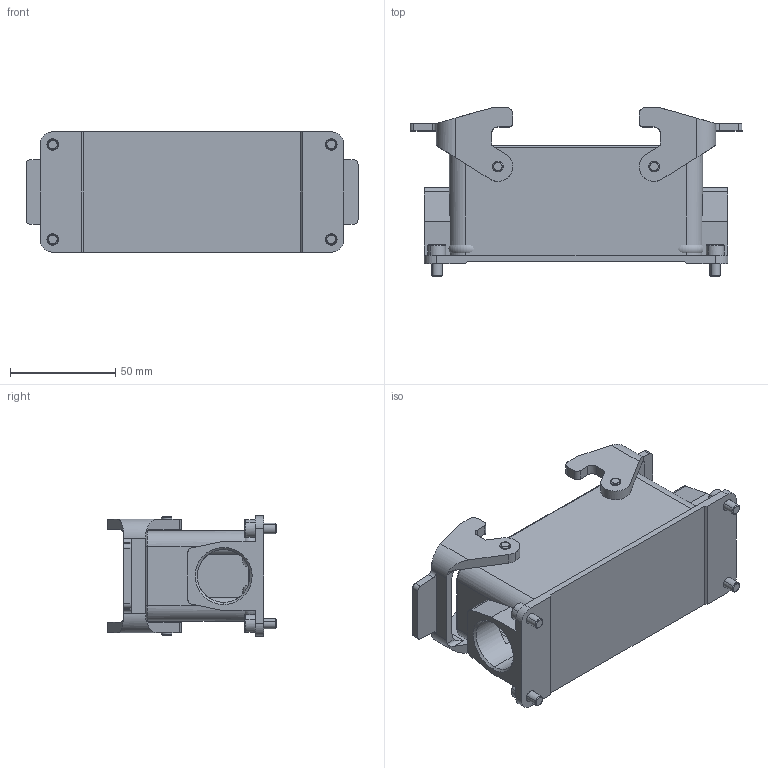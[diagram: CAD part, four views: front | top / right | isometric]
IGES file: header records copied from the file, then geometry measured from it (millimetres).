
Start section: 3D InterOp IGES (Version 25 0 2), Spatial Corp. Copyright (c) 1999-2007.
Global section: file name: E2711_56_24B.igs; native system: Spatial Corp.; preprocessor: 3D InterOp GENERIC/IGES 3.0; author: Noname; organization: Noname; date: 20160920.090131; units: metre
Bounding box: 157.4 x 80 x 57 mm (x, y, z)
Volume: 130763.5 mm3; surface area: 68602.2 mm2
Topology: 5 solids, 5 shells, 344 faces, 887 edges, 572 vertices
Faces by surface type: plane 158, cylinder 146, torus 28, cone 10, bspline 2
